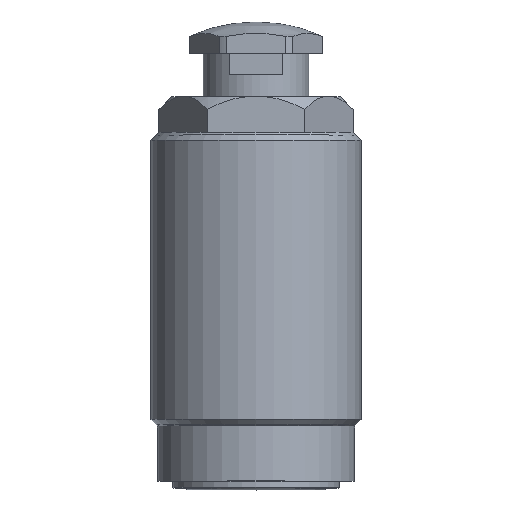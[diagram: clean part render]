
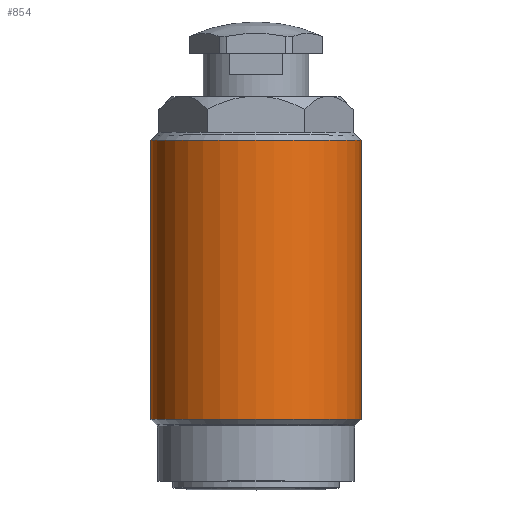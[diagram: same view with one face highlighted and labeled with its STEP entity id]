
A CAD part, top view. The second image highlights one B-rep face of the part: STEP entity #854.
In plain terms, the highlighted cylindrical face has radius 15 mm (diameter 30 mm), a partial arc.
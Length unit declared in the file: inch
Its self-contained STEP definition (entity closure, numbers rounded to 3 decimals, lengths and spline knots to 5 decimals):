
#248=CARTESIAN_POINT('',(0.,1.915,0.));
#249=DIRECTION('',(0.,-1.,0.));
#250=DIRECTION('',(1.,0.,0.));
#251=AXIS2_PLACEMENT_3D('',#248,#249,#250);
#253=DIRECTION('',(0.,-1.,0.));
#254=VECTOR('',#253,1.56795);
#255=CARTESIAN_POINT('',(0.59055,1.915,
0.));
#256=LINE('',#255,#254);
#257=DIRECTION('',(0.,-1.,0.));
#258=VECTOR('',#257,1.56795);
#259=CARTESIAN_POINT('',(-0.59055,1.915,
0.));
#260=LINE('',#259,#258);
#269=CARTESIAN_POINT('',(0.,0.34705,0.));
#270=DIRECTION('',(0.,1.,0.));
#271=DIRECTION('',(-1.,0.,0.));
#272=AXIS2_PLACEMENT_3D('',#269,#270,#271);
#441=CARTESIAN_POINT('',(-0.59055,0.34705,0.));
#443=VERTEX_POINT('',#441);
#447=CARTESIAN_POINT('',(0.59055,0.34705,0.));
#449=VERTEX_POINT('',#447);
#527=CARTESIAN_POINT('',(-0.59055,1.915,0.));
#528=CARTESIAN_POINT('',(0.59055,1.915,0.));
#529=VERTEX_POINT('',#527);
#530=VERTEX_POINT('',#528);
#841=CARTESIAN_POINT('',(0.,2.268,0.));
#842=DIRECTION('',(0.,-1.,0.));
#843=DIRECTION('',(-1.,0.,0.));
#844=AXIS2_PLACEMENT_3D('',#841,#842,#843);
#845=CYLINDRICAL_SURFACE('',#844,0.59055);
#847=ORIENTED_EDGE('',*,*,#846,.F.);
#848=ORIENTED_EDGE('',*,*,#836,.T.);
#850=ORIENTED_EDGE('',*,*,#849,.F.);
#851=ORIENTED_EDGE('',*,*,#832,.F.);
#852=EDGE_LOOP('',(#847,#848,#850,#851));
#853=FACE_OUTER_BOUND('',#852,.F.);
#854=ADVANCED_FACE('',(#853),#845,.T.);
#252=CIRCLE('',#251,0.59055);
#273=CIRCLE('',#272,0.59055);
#832=EDGE_CURVE('',#529,#443,#260,.T.);
#836=EDGE_CURVE('',#530,#449,#256,.T.);
#846=EDGE_CURVE('',#530,#529,#252,.T.);
#849=EDGE_CURVE('',#443,#449,#273,.T.);
